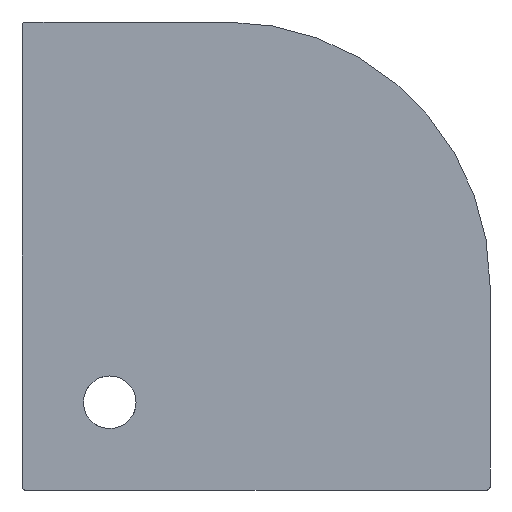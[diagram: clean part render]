
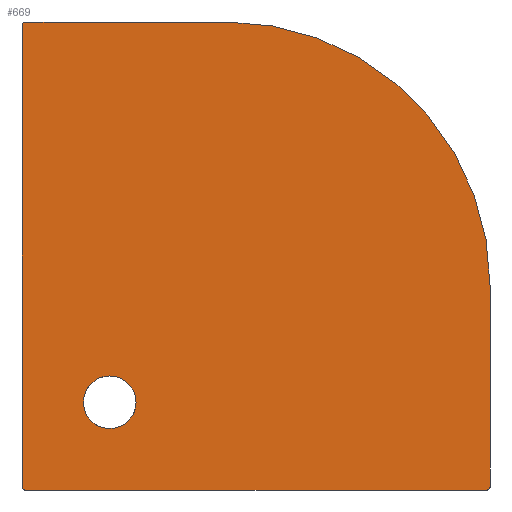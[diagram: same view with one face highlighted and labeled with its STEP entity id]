
A CAD part, front view. The second image highlights one B-rep face of the part: STEP entity #669.
In plain terms, the highlighted planar face has unit normal (0, -1, 0).
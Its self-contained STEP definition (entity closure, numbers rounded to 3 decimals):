
#59=FACE_BOUND('',#110,.T.);
#62=FACE_OUTER_BOUND('',#109,.T.);
#109=EDGE_LOOP('',(#456,#457,#458,#459,#460,#461,#462,#463));
#110=EDGE_LOOP('',(#464));
#159=LINE('',#1060,#205);
#160=LINE('',#1064,#206);
#161=LINE('',#1068,#207);
#162=LINE('',#1071,#208);
#205=VECTOR('',#828,10.);
#206=VECTOR('',#831,10.);
#207=VECTOR('',#834,10.);
#208=VECTOR('',#837,10.);
#251=CIRCLE('',#731,5.);
#252=CIRCLE('',#732,5.);
#253=CIRCLE('',#733,5.);
#254=CIRCLE('',#734,450.);
#255=CIRCLE('',#735,45.);
#298=VERTEX_POINT('',#1056);
#299=VERTEX_POINT('',#1057);
#300=VERTEX_POINT('',#1059);
#301=VERTEX_POINT('',#1061);
#302=VERTEX_POINT('',#1063);
#303=VERTEX_POINT('',#1065);
#304=VERTEX_POINT('',#1067);
#305=VERTEX_POINT('',#1069);
#306=VERTEX_POINT('',#1072);
#355=EDGE_CURVE('',#298,#299,#251,.T.);
#356=EDGE_CURVE('',#300,#298,#159,.T.);
#357=EDGE_CURVE('',#301,#300,#252,.T.);
#358=EDGE_CURVE('',#302,#301,#160,.T.);
#359=EDGE_CURVE('',#303,#302,#253,.T.);
#360=EDGE_CURVE('',#304,#303,#161,.T.);
#361=EDGE_CURVE('',#305,#304,#254,.T.);
#362=EDGE_CURVE('',#299,#305,#162,.T.);
#363=EDGE_CURVE('',#306,#306,#255,.T.);
#456=ORIENTED_EDGE('',*,*,#355,.F.);
#457=ORIENTED_EDGE('',*,*,#356,.F.);
#458=ORIENTED_EDGE('',*,*,#357,.F.);
#459=ORIENTED_EDGE('',*,*,#358,.F.);
#460=ORIENTED_EDGE('',*,*,#359,.F.);
#461=ORIENTED_EDGE('',*,*,#360,.F.);
#462=ORIENTED_EDGE('',*,*,#361,.F.);
#463=ORIENTED_EDGE('',*,*,#362,.F.);
#464=ORIENTED_EDGE('',*,*,#363,.F.);
#658=PLANE('',#730);
#669=ADVANCED_FACE('',(#62,#59),#658,.F.);
#730=AXIS2_PLACEMENT_3D('',#1055,#824,#825);
#731=AXIS2_PLACEMENT_3D('',#1058,#826,#827);
#732=AXIS2_PLACEMENT_3D('',#1062,#829,#830);
#733=AXIS2_PLACEMENT_3D('',#1066,#832,#833);
#734=AXIS2_PLACEMENT_3D('',#1070,#835,#836);
#735=AXIS2_PLACEMENT_3D('',#1073,#838,#839);
#824=DIRECTION('center_axis',(0.,1.,0.));
#825=DIRECTION('ref_axis',(1.,0.,0.));
#826=DIRECTION('center_axis',(0.,1.,0.));
#827=DIRECTION('ref_axis',(-0.707,0.,0.707));
#828=DIRECTION('',(0.,0.,1.));
#829=DIRECTION('center_axis',(0.,1.,0.));
#830=DIRECTION('ref_axis',(-0.707,0.,-0.707));
#831=DIRECTION('',(-1.,0.,0.));
#832=DIRECTION('center_axis',(0.,1.,0.));
#833=DIRECTION('ref_axis',(0.707,0.,-0.707));
#834=DIRECTION('',(0.,0.,-1.));
#835=DIRECTION('center_axis',(0.,1.,0.));
#836=DIRECTION('ref_axis',(0.,0.,1.));
#837=DIRECTION('',(1.,0.,0.));
#838=DIRECTION('center_axis',(0.,-1.,0.));
#839=DIRECTION('ref_axis',(-1.,0.,0.));
#1055=CARTESIAN_POINT('Origin',(0.,75.,0.));
#1056=CARTESIAN_POINT('',(-400.,75.,395.));
#1057=CARTESIAN_POINT('',(-395.,75.,400.));
#1058=CARTESIAN_POINT('Origin',(-395.,75.,395.));
#1059=CARTESIAN_POINT('',(-400.,75.,-395.));
#1060=CARTESIAN_POINT('',(-400.,75.,-200.));
#1061=CARTESIAN_POINT('',(-395.,75.,-400.));
#1062=CARTESIAN_POINT('Origin',(-395.,75.,-395.));
#1063=CARTESIAN_POINT('',(395.,75.,-400.));
#1064=CARTESIAN_POINT('',(200.,75.,-400.));
#1065=CARTESIAN_POINT('',(400.,75.,-395.));
#1066=CARTESIAN_POINT('Origin',(395.,75.,-395.));
#1067=CARTESIAN_POINT('',(400.,75.,-50.));
#1068=CARTESIAN_POINT('',(400.,75.,200.));
#1069=CARTESIAN_POINT('',(-50.,75.,400.));
#1070=CARTESIAN_POINT('Origin',(-50.,75.,-50.));
#1071=CARTESIAN_POINT('',(-200.,75.,400.));
#1072=CARTESIAN_POINT('',(-205.,75.,-250.));
#1073=CARTESIAN_POINT('Origin',(-250.,75.,-250.));
